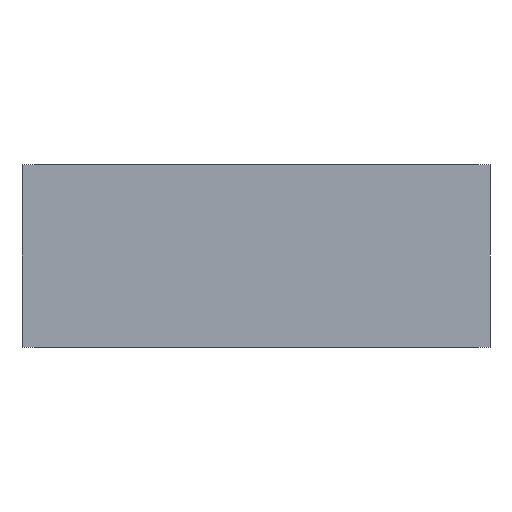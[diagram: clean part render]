
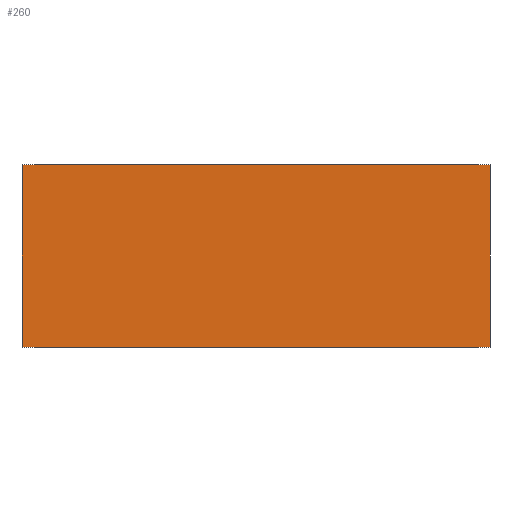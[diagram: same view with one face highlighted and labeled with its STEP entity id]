
A CAD part, front view. The second image highlights one B-rep face of the part: STEP entity #260.
In plain terms, the highlighted planar face has unit normal (0, -1, 0).
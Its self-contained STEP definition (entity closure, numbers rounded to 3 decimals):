
#24 = FACE_OUTER_BOUND ( 'NONE', #58, .T. ) ;
#39 = VECTOR ( 'NONE', #532, 1000. ) ;
#58 = EDGE_LOOP ( 'NONE', ( #121, #122, #75, #76 ) ) ;
#65 = VECTOR ( 'NONE', #471, 1000. ) ;
#75 = ORIENTED_EDGE ( 'NONE', *, *, #351, .F. ) ;
#76 = ORIENTED_EDGE ( 'NONE', *, *, #311, .T. ) ;
#115 = LINE ( 'NONE', #465, #65 ) ;
#121 = ORIENTED_EDGE ( 'NONE', *, *, #281, .T. ) ;
#122 = ORIENTED_EDGE ( 'NONE', *, *, #329, .F. ) ;
#190 = LINE ( 'NONE', #506, #203 ) ;
#203 = VECTOR ( 'NONE', #511, 1000. ) ;
#204 = LINE ( 'NONE', #526, #39 ) ;
#242 = LINE ( 'NONE', #562, #243 ) ;
#243 = VECTOR ( 'NONE', #563, 1000. ) ;
#260 = ADVANCED_FACE ( 'NONE', ( #24 ), #362, .F. ) ;
#281 = EDGE_CURVE ( 'NONE', #389, #369, #115, .T. ) ;
#311 = EDGE_CURVE ( 'NONE', #382, #389, #190, .T. ) ;
#329 = EDGE_CURVE ( 'NONE', #390, #369, #204, .T. ) ;
#336 = AXIS2_PLACEMENT_3D ( 'NONE', #361, #406, #407 ) ;
#351 = EDGE_CURVE ( 'NONE', #382, #390, #242, .T. ) ;
#361 = CARTESIAN_POINT ( 'NONE',  ( -154., 0., 120. ) ) ;
#362 = PLANE ( 'NONE',  #336 ) ;
#369 = VERTEX_POINT ( 'NONE', #568 ) ;
#382 = VERTEX_POINT ( 'NONE', #581 ) ;
#389 = VERTEX_POINT ( 'NONE', #588 ) ;
#390 = VERTEX_POINT ( 'NONE', #589 ) ;
#406 = DIRECTION ( 'NONE',  ( 0., 1., 0. ) ) ;
#407 = DIRECTION ( 'NONE',  ( -1., 0., 0. ) ) ;
#465 = CARTESIAN_POINT ( 'NONE',  ( -154., 0., 0. ) ) ;
#471 = DIRECTION ( 'NONE',  ( 1., 0., 0. ) ) ;
#506 = CARTESIAN_POINT ( 'NONE',  ( -154., 0., 120. ) ) ;
#511 = DIRECTION ( 'NONE',  ( 0., 0., -1. ) ) ;
#526 = CARTESIAN_POINT ( 'NONE',  ( 154., 0., 120. ) ) ;
#532 = DIRECTION ( 'NONE',  ( 0., 0., -1. ) ) ;
#562 = CARTESIAN_POINT ( 'NONE',  ( -154., 0., 120. ) ) ;
#563 = DIRECTION ( 'NONE',  ( 1., 0., 0. ) ) ;
#568 = CARTESIAN_POINT ( 'NONE',  ( 154., 0., 0. ) ) ;
#581 = CARTESIAN_POINT ( 'NONE',  ( -154., 0., 120. ) ) ;
#588 = CARTESIAN_POINT ( 'NONE',  ( -154., 0., 0. ) ) ;
#589 = CARTESIAN_POINT ( 'NONE',  ( 154., 0., 120. ) ) ;
